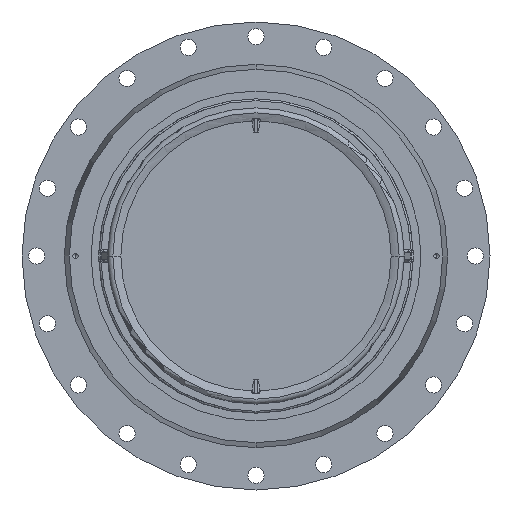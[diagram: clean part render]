
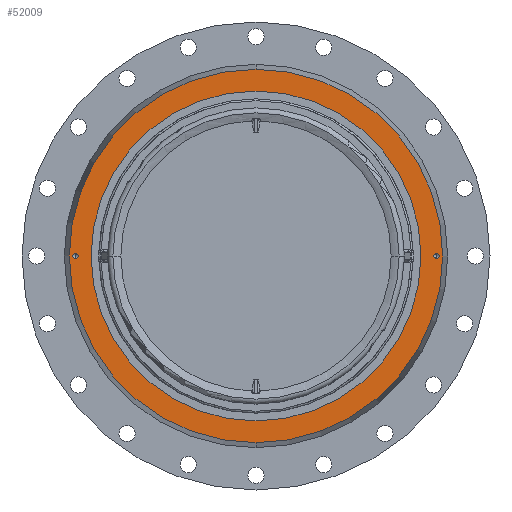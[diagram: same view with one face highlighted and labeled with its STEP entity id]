
A CAD part, front view. The second image highlights one B-rep face of the part: STEP entity #52009.
In plain terms, the highlighted planar face has unit normal (0, -1, 0).
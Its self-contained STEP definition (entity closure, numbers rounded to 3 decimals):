
#1768 = AXIS2_PLACEMENT_3D ( 'NONE', #78231, #31786, #86033 ) ;
#5958 = DIRECTION ( 'NONE',  ( 0., 1., 0. ) ) ;
#6792 = DIRECTION ( 'NONE',  ( 0., -1., 0. ) ) ;
#7609 = CIRCLE ( 'NONE', #1768, 300. ) ;
#7763 = FACE_OUTER_BOUND ( 'NONE', #17475, .T. ) ;
#7923 = AXIS2_PLACEMENT_3D ( 'NONE', #52303, #5958, #60115 ) ;
#8779 = ORIENTED_EDGE ( 'NONE', *, *, #91241, .F. ) ;
#11928 = EDGE_CURVE ( 'NONE', #23144, #69401, #7609, .T. ) ;
#12649 = AXIS2_PLACEMENT_3D ( 'NONE', #60236, #13871, #68077 ) ;
#13871 = DIRECTION ( 'NONE',  ( 0., -1., 0. ) ) ;
#14409 = CARTESIAN_POINT ( 'NONE',  ( -290., -650.521, 0. ) ) ;
#16015 = CARTESIAN_POINT ( 'NONE',  ( 0., -650.521, 265. ) ) ;
#17475 = EDGE_LOOP ( 'NONE', ( #38759, #8779 ) ) ;
#17586 = CARTESIAN_POINT ( 'NONE',  ( 290., -650.521, 4.25 ) ) ;
#19704 = CIRCLE ( 'NONE', #44676, 300. ) ;
#22206 = DIRECTION ( 'NONE',  ( 0., 0., -1. ) ) ;
#23144 = VERTEX_POINT ( 'NONE', #49862 ) ;
#23533 = VERTEX_POINT ( 'NONE', #16015 ) ;
#23683 = AXIS2_PLACEMENT_3D ( 'NONE', #14409, #68637, #22206 ) ;
#24296 = EDGE_CURVE ( 'NONE', #41297, #65815, #70007, .T. ) ;
#24451 = EDGE_LOOP ( 'NONE', ( #58762, #70930 ) ) ;
#25737 = CARTESIAN_POINT ( 'NONE',  ( 0., -650.521, 0. ) ) ;
#25929 = FACE_BOUND ( 'NONE', #87532, .T. ) ;
#26099 = VERTEX_POINT ( 'NONE', #98857 ) ;
#26958 = CIRCLE ( 'NONE', #72763, 4.25 ) ;
#29326 = VERTEX_POINT ( 'NONE', #38949 ) ;
#31786 = DIRECTION ( 'NONE',  ( 0., 1., 0. ) ) ;
#33524 = DIRECTION ( 'NONE',  ( 0., 0., 1. ) ) ;
#37190 = EDGE_CURVE ( 'NONE', #23533, #26099, #55570, .T. ) ;
#38079 = CARTESIAN_POINT ( 'NONE',  ( 0., -650.521, 0. ) ) ;
#38759 = ORIENTED_EDGE ( 'NONE', *, *, #11928, .F. ) ;
#38949 = CARTESIAN_POINT ( 'NONE',  ( 290., -650.521, -4.25 ) ) ;
#38974 = CARTESIAN_POINT ( 'NONE',  ( -290., -650.521, 0. ) ) ;
#40842 = DIRECTION ( 'NONE',  ( 0., -1., 0. ) ) ;
#41297 = VERTEX_POINT ( 'NONE', #97812 ) ;
#44676 = AXIS2_PLACEMENT_3D ( 'NONE', #25737, #79929, #33524 ) ;
#45247 = CIRCLE ( 'NONE', #12649, 4.25 ) ;
#45651 = EDGE_CURVE ( 'NONE', #29326, #49510, #45247, .T. ) ;
#45874 = DIRECTION ( 'NONE',  ( 0., 0., 1. ) ) ;
#46497 = AXIS2_PLACEMENT_3D ( 'NONE', #53120, #6792, #60925 ) ;
#46782 = DIRECTION ( 'NONE',  ( 0., 0., -1. ) ) ;
#47347 = CIRCLE ( 'NONE', #7923, 265. ) ;
#48802 = AXIS2_PLACEMENT_3D ( 'NONE', #87275, #40842, #95104 ) ;
#48915 = EDGE_CURVE ( 'NONE', #65815, #41297, #26958, .T. ) ;
#49510 = VERTEX_POINT ( 'NONE', #17586 ) ;
#49862 = CARTESIAN_POINT ( 'NONE',  ( 0., -650.521, 300. ) ) ;
#51800 = PLANE ( 'NONE',  #46497 ) ;
#52009 = ADVANCED_FACE ( 'NONE', ( #25929, #64672, #85337, #7763 ), #51800, .T. ) ;
#52303 = CARTESIAN_POINT ( 'NONE',  ( 0., -650.521, 0. ) ) ;
#53120 = CARTESIAN_POINT ( 'NONE',  ( -300., -650.521, 0. ) ) ;
#55570 = CIRCLE ( 'NONE', #100002, 265. ) ;
#56170 = ORIENTED_EDGE ( 'NONE', *, *, #37190, .T. ) ;
#58762 = ORIENTED_EDGE ( 'NONE', *, *, #45651, .F. ) ;
#58873 = EDGE_LOOP ( 'NONE', ( #56170, #78520 ) ) ;
#60115 = DIRECTION ( 'NONE',  ( 0., 0., 1. ) ) ;
#60236 = CARTESIAN_POINT ( 'NONE',  ( 290., -650.521, 0. ) ) ;
#60925 = DIRECTION ( 'NONE',  ( 0., 0., -1. ) ) ;
#63001 = EDGE_CURVE ( 'NONE', #49510, #29326, #63694, .T. ) ;
#63694 = CIRCLE ( 'NONE', #48802, 4.25 ) ;
#64672 = FACE_BOUND ( 'NONE', #24451, .T. ) ;
#65815 = VERTEX_POINT ( 'NONE', #68754 ) ;
#68077 = DIRECTION ( 'NONE',  ( 0., 0., -1. ) ) ;
#68637 = DIRECTION ( 'NONE',  ( 0., -1., 0. ) ) ;
#68754 = CARTESIAN_POINT ( 'NONE',  ( -290., -650.521, 4.25 ) ) ;
#69401 = VERTEX_POINT ( 'NONE', #71241 ) ;
#70007 = CIRCLE ( 'NONE', #23683, 4.25 ) ;
#70930 = ORIENTED_EDGE ( 'NONE', *, *, #63001, .F. ) ;
#71241 = CARTESIAN_POINT ( 'NONE',  ( 0., -650.521, -300. ) ) ;
#72763 = AXIS2_PLACEMENT_3D ( 'NONE', #38974, #93247, #46782 ) ;
#73337 = EDGE_CURVE ( 'NONE', #26099, #23533, #47347, .T. ) ;
#78231 = CARTESIAN_POINT ( 'NONE',  ( 0., -650.521, 0. ) ) ;
#78520 = ORIENTED_EDGE ( 'NONE', *, *, #73337, .T. ) ;
#79929 = DIRECTION ( 'NONE',  ( 0., 1., 0. ) ) ;
#85337 = FACE_BOUND ( 'NONE', #58873, .T. ) ;
#86033 = DIRECTION ( 'NONE',  ( 0., 0., 1. ) ) ;
#87275 = CARTESIAN_POINT ( 'NONE',  ( 290., -650.521, 0. ) ) ;
#87532 = EDGE_LOOP ( 'NONE', ( #94739, #96456 ) ) ;
#91241 = EDGE_CURVE ( 'NONE', #69401, #23144, #19704, .T. ) ;
#92323 = DIRECTION ( 'NONE',  ( 0., 1., 0. ) ) ;
#93247 = DIRECTION ( 'NONE',  ( 0., -1., 0. ) ) ;
#94739 = ORIENTED_EDGE ( 'NONE', *, *, #24296, .F. ) ;
#95104 = DIRECTION ( 'NONE',  ( 0., 0., -1. ) ) ;
#96456 = ORIENTED_EDGE ( 'NONE', *, *, #48915, .F. ) ;
#97812 = CARTESIAN_POINT ( 'NONE',  ( -290., -650.521, -4.25 ) ) ;
#98857 = CARTESIAN_POINT ( 'NONE',  ( 0., -650.521, -265. ) ) ;
#100002 = AXIS2_PLACEMENT_3D ( 'NONE', #38079, #92323, #45874 ) ;
